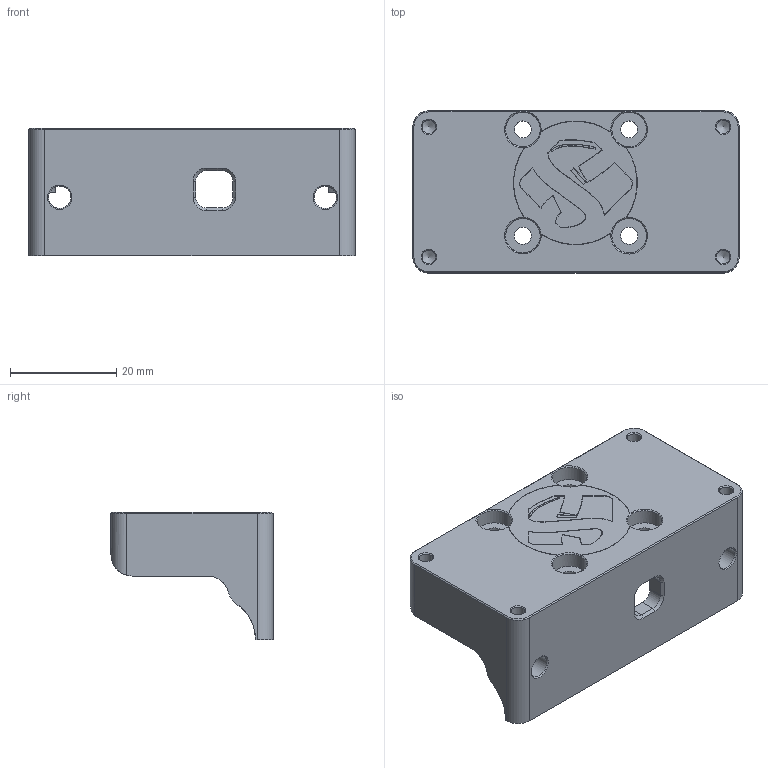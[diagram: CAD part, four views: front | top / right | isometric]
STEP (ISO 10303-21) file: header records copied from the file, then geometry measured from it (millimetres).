
FILE_DESCRIPTION(/* description */ (''),/* implementation_level */ '2;1');
FILE_NAME(/* name */ 'MGN12h Standard Anycubic Adapter_.step',/* time_stamp */ '2023-07-15T19:43:49+02:00',/* author */ (''),/* organization */ (''),/* preprocessor_version */ 'ST-DEVELOPER v19.2',/* originating_system */ 'Autodesk Translation Framework v12.6.0.85',/* authorisation */ '');
FILE_SCHEMA (('AUTOMOTIVE_DESIGN { 1 0 10303 214 3 1 1 }'));
Length unit declared in the file: millimetre
Products named in the file (1): MGN12h Adapter
Bounding box: 61.4 x 30.5 x 24 mm (x, y, z)
Volume: 18487 mm3; surface area: 8426.7 mm2
Topology: 1 solids, 1 shells, 255 faces, 706 edges, 458 vertices
Faces by surface type: bspline 98, plane 85, cylinder 40, cone 32
Full cylindrical faces by diameter (mm): 2.529 x4, 3.2 x4, 4.234 x2, 6.5 x4
Entity records: 9764 total; most frequent: CARTESIAN_POINT 4088, ORIENTED_EDGE 1404, DIRECTION 876, EDGE_CURVE 702, VERTEX_POINT 458, LINE 314, VECTOR 314, AXIS2_PLACEMENT_3D 281
